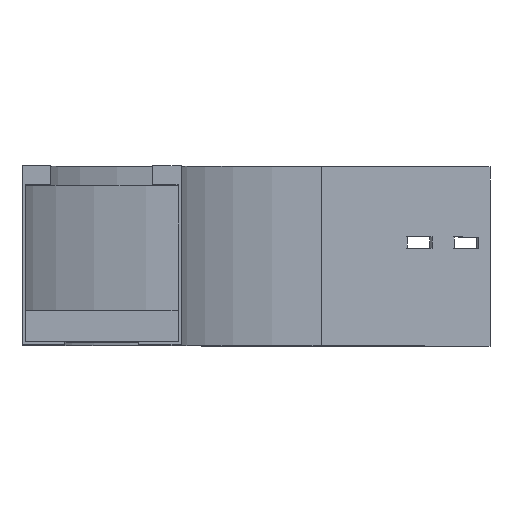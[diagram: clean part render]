
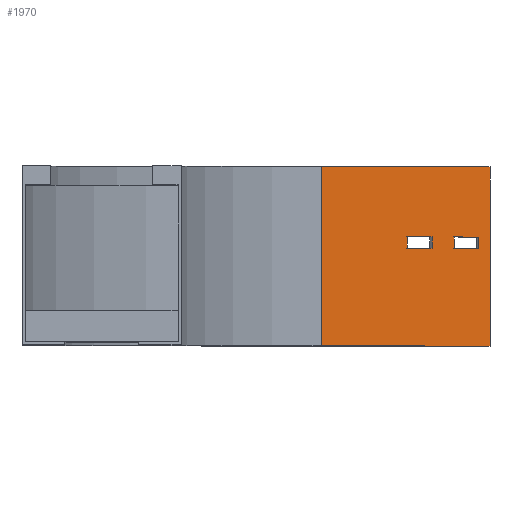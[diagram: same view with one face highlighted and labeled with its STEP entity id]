
A CAD part, top view. The second image highlights one B-rep face of the part: STEP entity #1970.
In plain terms, the highlighted planar face has unit normal (0.707, 0, 0.707).
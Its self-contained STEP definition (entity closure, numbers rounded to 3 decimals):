
#9 = VERTEX_POINT ( 'NONE', #2306 ) ;
#30 = ORIENTED_EDGE ( 'NONE', *, *, #901, .F. ) ;
#50 = CARTESIAN_POINT ( 'NONE',  ( 157.514, 61.5, -431.779 ) ) ;
#56 = CARTESIAN_POINT ( 'NONE',  ( 186.98, 68.5, -461.244 ) ) ;
#70 = CARTESIAN_POINT ( 'NONE',  ( 193.934, 0., -468.198 ) ) ;
#84 = CARTESIAN_POINT ( 'NONE',  ( 87.868, 0., -362.132 ) ) ;
#108 = VECTOR ( 'NONE', #1132, 1000. ) ;
#143 = EDGE_CURVE ( 'NONE', #1953, #419, #363, .T. ) ;
#147 = ORIENTED_EDGE ( 'NONE', *, *, #2856, .F. ) ;
#150 = LINE ( 'NONE', #792, #2778 ) ;
#287 = VECTOR ( 'NONE', #1988, 1000. ) ;
#363 = LINE ( 'NONE', #1560, #3687 ) ;
#382 = EDGE_CURVE ( 'NONE', #1424, #2615, #511, .T. ) ;
#404 = CARTESIAN_POINT ( 'NONE',  ( 157.514, 68.5, -431.779 ) ) ;
#419 = VERTEX_POINT ( 'NONE', #3775 ) ;
#456 = VERTEX_POINT ( 'NONE', #3285 ) ;
#511 = LINE ( 'NONE', #2962, #2871 ) ;
#516 = DIRECTION ( 'NONE',  ( 0., 1., 0. ) ) ;
#656 = DIRECTION ( 'NONE',  ( 0., 1., 0. ) ) ;
#696 = EDGE_LOOP ( 'NONE', ( #2978, #1714, #1702, #3274 ) ) ;
#792 = CARTESIAN_POINT ( 'NONE',  ( 87.868, 0., -362.132 ) ) ;
#815 = ORIENTED_EDGE ( 'NONE', *, *, #1655, .F. ) ;
#821 = EDGE_CURVE ( 'NONE', #9, #3675, #1761, .T. ) ;
#901 = EDGE_CURVE ( 'NONE', #1449, #456, #3047, .T. ) ;
#981 = DIRECTION ( 'NONE',  ( -0.707, 0., -0.707 ) ) ;
#1042 = CARTESIAN_POINT ( 'NONE',  ( 171.423, 61.5, -445.687 ) ) ;
#1121 = LINE ( 'NONE', #1732, #3757 ) ;
#1132 = DIRECTION ( 'NONE',  ( 0.707, 0., -0.707 ) ) ;
#1225 = CARTESIAN_POINT ( 'NONE',  ( 193.934, 112.5, -468.198 ) ) ;
#1246 = LINE ( 'NONE', #2131, #3635 ) ;
#1335 = EDGE_CURVE ( 'NONE', #3675, #1953, #3167, .T. ) ;
#1424 = VERTEX_POINT ( 'NONE', #70 ) ;
#1425 = CARTESIAN_POINT ( 'NONE',  ( 87.868, 112.5, -362.132 ) ) ;
#1449 = VERTEX_POINT ( 'NONE', #50 ) ;
#1560 = CARTESIAN_POINT ( 'NONE',  ( 186.98, 61.5, -461.244 ) ) ;
#1587 = VECTOR ( 'NONE', #3367, 1000. ) ;
#1606 = ORIENTED_EDGE ( 'NONE', *, *, #1876, .F. ) ;
#1655 = EDGE_CURVE ( 'NONE', #1821, #1449, #1121, .T. ) ;
#1656 = ORIENTED_EDGE ( 'NONE', *, *, #382, .T. ) ;
#1702 = ORIENTED_EDGE ( 'NONE', *, *, #2853, .F. ) ;
#1714 = ORIENTED_EDGE ( 'NONE', *, *, #821, .F. ) ;
#1732 = CARTESIAN_POINT ( 'NONE',  ( 157.514, 61.5, -431.779 ) ) ;
#1761 = LINE ( 'NONE', #2032, #2795 ) ;
#1772 = CARTESIAN_POINT ( 'NONE',  ( 141.958, 61.5, -416.222 ) ) ;
#1784 = VERTEX_POINT ( 'NONE', #3596 ) ;
#1821 = VERTEX_POINT ( 'NONE', #1772 ) ;
#1837 = AXIS2_PLACEMENT_3D ( 'NONE', #3637, #981, #2537 ) ;
#1876 = EDGE_CURVE ( 'NONE', #1784, #1821, #1893, .T. ) ;
#1893 = LINE ( 'NONE', #3075, #1587 ) ;
#1932 = PLANE ( 'NONE',  #1837 ) ;
#1943 = VERTEX_POINT ( 'NONE', #84 ) ;
#1953 = VERTEX_POINT ( 'NONE', #1042 ) ;
#1970 = ADVANCED_FACE ( 'NONE', ( #2456, #2198, #2240 ), #1932, .F. ) ;
#1988 = DIRECTION ( 'NONE',  ( 0.707, 0., -0.707 ) ) ;
#2032 = CARTESIAN_POINT ( 'NONE',  ( 186.98, 68.5, -461.244 ) ) ;
#2052 = EDGE_CURVE ( 'NONE', #3564, #2615, #2315, .T. ) ;
#2109 = DIRECTION ( 'NONE',  ( -0.707, 0., 0.707 ) ) ;
#2122 = DIRECTION ( 'NONE',  ( 0.707, 0., -0.707 ) ) ;
#2131 = CARTESIAN_POINT ( 'NONE',  ( 157.514, 68.5, -431.779 ) ) ;
#2198 = FACE_BOUND ( 'NONE', #2448, .T. ) ;
#2211 = LINE ( 'NONE', #56, #2461 ) ;
#2235 = CARTESIAN_POINT ( 'NONE',  ( 171.423, 68.5, -445.687 ) ) ;
#2240 = FACE_OUTER_BOUND ( 'NONE', #2834, .T. ) ;
#2296 = DIRECTION ( 'NONE',  ( 0., -1., 0. ) ) ;
#2306 = CARTESIAN_POINT ( 'NONE',  ( 186.98, 68.5, -461.244 ) ) ;
#2315 = LINE ( 'NONE', #1425, #287 ) ;
#2448 = EDGE_LOOP ( 'NONE', ( #147, #30, #815, #1606 ) ) ;
#2456 = FACE_BOUND ( 'NONE', #696, .T. ) ;
#2461 = VECTOR ( 'NONE', #656, 1000. ) ;
#2537 = DIRECTION ( 'NONE',  ( -0.707, 0., 0.707 ) ) ;
#2595 = DIRECTION ( 'NONE',  ( 0.707, 0., -0.707 ) ) ;
#2615 = VERTEX_POINT ( 'NONE', #1225 ) ;
#2635 = ORIENTED_EDGE ( 'NONE', *, *, #2052, .F. ) ;
#2751 = VECTOR ( 'NONE', #2762, 1000. ) ;
#2762 = DIRECTION ( 'NONE',  ( 0., 1., 0. ) ) ;
#2778 = VECTOR ( 'NONE', #516, 1000. ) ;
#2795 = VECTOR ( 'NONE', #2109, 1000. ) ;
#2834 = EDGE_LOOP ( 'NONE', ( #2635, #2933, #3628, #1656 ) ) ;
#2853 = EDGE_CURVE ( 'NONE', #419, #9, #2211, .T. ) ;
#2856 = EDGE_CURVE ( 'NONE', #456, #1784, #1246, .T. ) ;
#2871 = VECTOR ( 'NONE', #3498, 1000. ) ;
#2906 = EDGE_CURVE ( 'NONE', #1943, #3564, #150, .T. ) ;
#2933 = ORIENTED_EDGE ( 'NONE', *, *, #2906, .F. ) ;
#2962 = CARTESIAN_POINT ( 'NONE',  ( 193.934, 0., -468.198 ) ) ;
#2978 = ORIENTED_EDGE ( 'NONE', *, *, #1335, .F. ) ;
#3033 = DIRECTION ( 'NONE',  ( -0.707, 0., 0.707 ) ) ;
#3047 = LINE ( 'NONE', #404, #2751 ) ;
#3075 = CARTESIAN_POINT ( 'NONE',  ( 141.958, 68.5, -416.222 ) ) ;
#3129 = CARTESIAN_POINT ( 'NONE',  ( 87.868, 112.5, -362.132 ) ) ;
#3158 = LINE ( 'NONE', #3188, #108 ) ;
#3167 = LINE ( 'NONE', #2235, #3826 ) ;
#3188 = CARTESIAN_POINT ( 'NONE',  ( 87.868, 0., -362.132 ) ) ;
#3274 = ORIENTED_EDGE ( 'NONE', *, *, #143, .F. ) ;
#3285 = CARTESIAN_POINT ( 'NONE',  ( 157.514, 68.5, -431.779 ) ) ;
#3367 = DIRECTION ( 'NONE',  ( 0., -1., 0. ) ) ;
#3385 = EDGE_CURVE ( 'NONE', #1943, #1424, #3158, .T. ) ;
#3476 = CARTESIAN_POINT ( 'NONE',  ( 171.423, 68.5, -445.687 ) ) ;
#3498 = DIRECTION ( 'NONE',  ( 0., 1., 0. ) ) ;
#3564 = VERTEX_POINT ( 'NONE', #3129 ) ;
#3596 = CARTESIAN_POINT ( 'NONE',  ( 141.958, 68.5, -416.222 ) ) ;
#3628 = ORIENTED_EDGE ( 'NONE', *, *, #3385, .T. ) ;
#3635 = VECTOR ( 'NONE', #3033, 1000. ) ;
#3637 = CARTESIAN_POINT ( 'NONE',  ( 87.868, 0., -362.132 ) ) ;
#3675 = VERTEX_POINT ( 'NONE', #3476 ) ;
#3687 = VECTOR ( 'NONE', #2122, 1000. ) ;
#3757 = VECTOR ( 'NONE', #2595, 1000. ) ;
#3775 = CARTESIAN_POINT ( 'NONE',  ( 186.98, 61.5, -461.244 ) ) ;
#3826 = VECTOR ( 'NONE', #2296, 1000. ) ;
